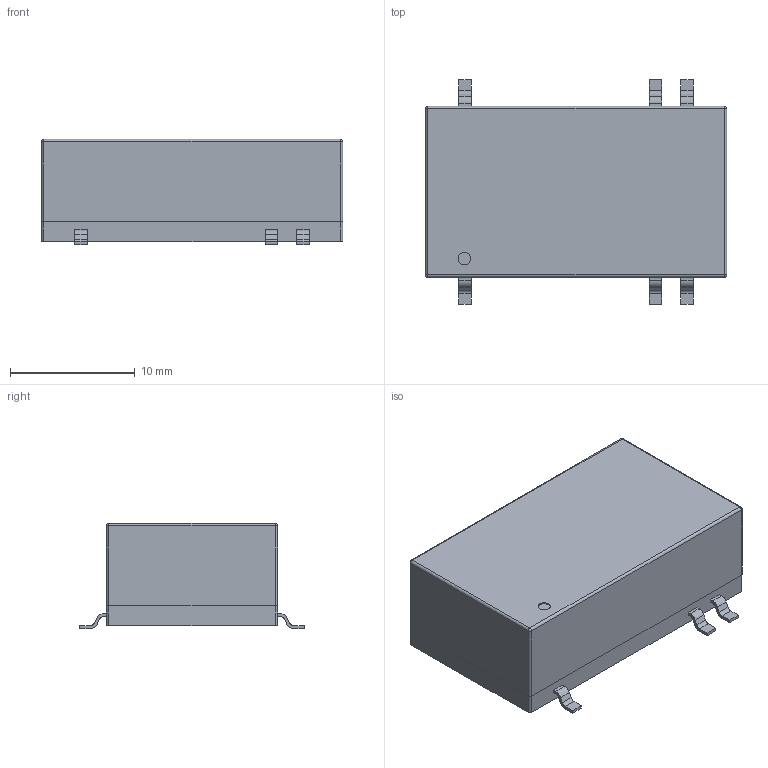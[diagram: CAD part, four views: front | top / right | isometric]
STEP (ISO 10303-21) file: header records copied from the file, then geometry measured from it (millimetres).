
FILE_DESCRIPTION(/* description */ (''),/* implementation_level */ '2;1');
FILE_NAME(/* name */ 'C:\Users\Calliope\Desktop\MS+水洗孔3D\MSDW1000-W 3D(TES 2N).stp',/* time_stamp */ '2016-03-17T11:47:44+08:00',/* author */ ('Calliope'),/* organization */ (''),/* preprocessor_version */ 'ST-DEVELOPER v15.6',/* originating_system */ 'Autodesk Inventor 2015',/* authorisation */ '');
FILE_SCHEMA (('AUTOMOTIVE_DESIGN { 1 0 10303 214 3 1 1 }'));
Length unit declared in the file: millimetre
Products named in the file (3): MSDW1000-W Header; MSDW1000-W Cover; MSDW1000-W
Assembly tree (2 placements, depth 2):
  MSDW1000-W
    MSDW1000-W Header
    MSDW1000-W Cover
Bounding box: 24.15 x 18 x 8.45 mm (x, y, z)
Volume: 1303.7 mm3; surface area: 2520.6 mm2
Topology: 2 solids, 2 shells, 155 faces, 397 edges, 258 vertices
Faces by surface type: plane 108, cylinder 43, sphere 4
Full cylindrical faces by diameter (mm): 1 x2, 1.5 x1
Entity records: 4691 total; most frequent: CARTESIAN_POINT 808, DIRECTION 796, ORIENTED_EDGE 780, EDGE_CURVE 390, LINE 304, VECTOR 304, VERTEX_POINT 258, AXIS2_PLACEMENT_3D 246
